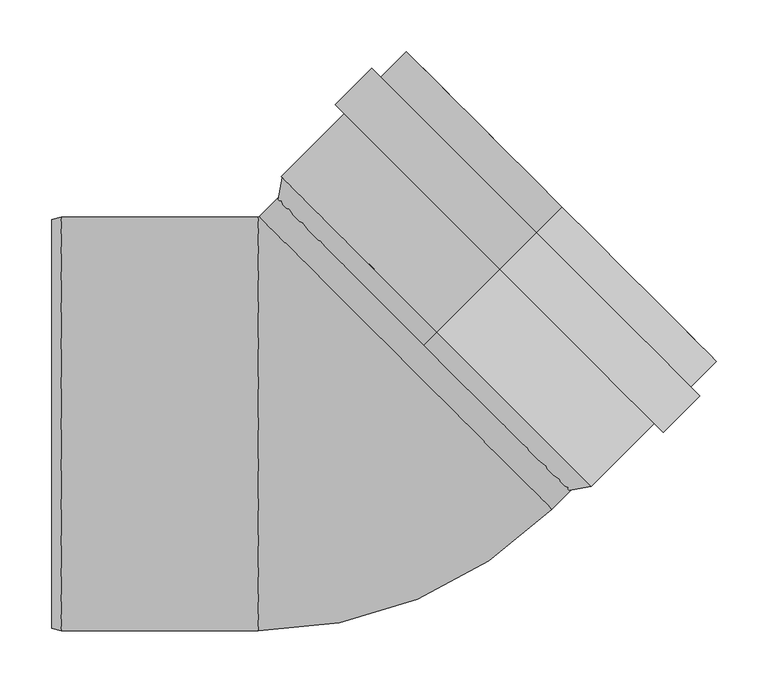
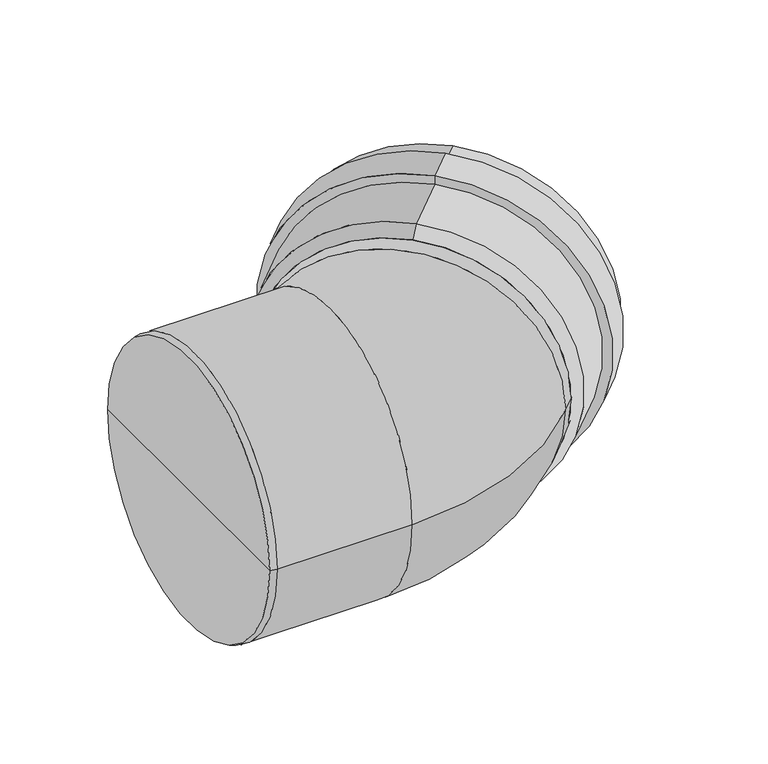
"""IFC4 building model written with IfcOpenShell, lengths in millimetres: pipe fitting geometry, OSMA_KG2000_PPKGB : Koleno 45°."""

from ifc_helpers import new_model, si_unit, point, frame, origin, place, context, project, spatial, polyline, circle_curve, ellipse_curve, trimmed, source, transform, mapped, element, save
from ifc_brep_helpers import plane_surface, cylinder_surface, revolved_surface, advanced_brep


def pipe_fitting_3167e5d4(model_context):
    return source(origin(), model_context, "Body", "AdvancedBrep", [
        advanced_brep(
        [(89.0954544, 89.0954544, 200.0), (89.0954544, 89.0954544, -200.0), (210.010714, 210.010714, -200.0), (210.010714, 210.010714, 200.0), (149.9066376, 149.9066376, 212.3), (149.9066376, 149.9066376, -212.3), (89.0954544, 89.0954544, -212.3), (89.0954544, 89.0954544, 212.3), (149.9066376, 149.9066376, 225.0), (149.9066376, 149.9066376, -225.0), (185.2619767, 185.2619767, 225.0), (185.2619767, 185.2619767, -225.0), (185.2619767, 185.2619767, 212.3), (185.2619767, 185.2619767, -212.3), (210.010714, 210.010714, 212.3), (210.010714, 210.010714, -212.3), (76.3675324, 76.3675324, 187.7), (76.3675324, 76.3675324, -187.7), (76.3675324, 76.3675324, 200.0), (76.3675324, 76.3675324, -200.0)],
        [
            (0, 1, circle_curve(frame((89.0954544, 89.0954544, 0.0), z_axis=(-0.7071067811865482, -0.7071067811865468, 0.0), x_axis=(0.0, 0.0, -1.0)), 200.0)),
            (1, 2),
            (2, 3, circle_curve(frame((210.010714, 210.010714, 0.0), z_axis=(0.7071067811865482, 0.7071067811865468, 0.0), x_axis=(0.0, 0.0, -1.0)), 200.0)),
            (3, 0),
            (1, 0, circle_curve(frame((89.0954544, 89.0954544, 0.0), z_axis=(-0.7071067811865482, -0.7071067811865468, 0.0), x_axis=(0.0, 0.0, -1.0)), 200.0)),
            (3, 2, circle_curve(frame((210.010714, 210.010714, 0.0), z_axis=(0.7071067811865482, 0.7071067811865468, 0.0), x_axis=(0.0, 0.0, -1.0)), 200.0)),
            (4, 5, circle_curve(frame((149.9066376, 149.9066376, 0.0), z_axis=(-0.7071067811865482, -0.7071067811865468, 0.0), x_axis=(0.0, 0.0, -1.0)), 212.3)),
            (5, 6),
            (6, 7, circle_curve(frame((89.0954544, 89.0954544, 0.0), z_axis=(0.7071067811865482, 0.7071067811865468, 0.0), x_axis=(0.0, 0.0, -1.0)), 212.3)),
            (7, 4),
            (5, 4, circle_curve(frame((149.9066376, 149.9066376, 0.0), z_axis=(-0.7071067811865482, -0.7071067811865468, 0.0), x_axis=(0.0, 0.0, -1.0)), 212.3)),
            (7, 6, circle_curve(frame((89.0954544, 89.0954544, 0.0), z_axis=(0.7071067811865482, 0.7071067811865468, 0.0), x_axis=(0.0, 0.0, -1.0)), 212.3)),
            (8, 9, circle_curve(frame((149.9066376, 149.9066376, 0.0), z_axis=(-0.7071067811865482, -0.7071067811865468, 0.0), x_axis=(0.0, 0.0, -1.0)), 225.0)),
            (9, 5),
            (4, 8),
            (9, 8, circle_curve(frame((149.9066376, 149.9066376, 0.0), z_axis=(-0.7071067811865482, -0.7071067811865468, 0.0), x_axis=(0.0, 0.0, -1.0)), 225.0)),
            (10, 11, circle_curve(frame((185.2619767, 185.2619767, 0.0), z_axis=(-0.7071067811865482, -0.7071067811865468, 0.0), x_axis=(0.0, 0.0, -1.0)), 225.0)),
            (11, 9),
            (8, 10),
            (11, 10, circle_curve(frame((185.2619767, 185.2619767, 0.0), z_axis=(-0.7071067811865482, -0.7071067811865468, 0.0), x_axis=(0.0, 0.0, -1.0)), 225.0)),
            (12, 13, circle_curve(frame((185.2619767, 185.2619767, 0.0), z_axis=(-0.7071067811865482, -0.7071067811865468, 0.0), x_axis=(0.0, 0.0, -1.0)), 212.3)),
            (13, 11),
            (10, 12),
            (13, 12, circle_curve(frame((185.2619767, 185.2619767, 0.0), z_axis=(-0.7071067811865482, -0.7071067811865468, 0.0), x_axis=(0.0, 0.0, -1.0)), 212.3)),
            (14, 15, circle_curve(frame((210.010714, 210.010714, 0.0), z_axis=(-0.7071067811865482, -0.7071067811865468, 0.0), x_axis=(0.0, 0.0, -1.0)), 212.3)),
            (15, 13),
            (12, 14),
            (15, 14, circle_curve(frame((210.010714, 210.010714, 0.0), z_axis=(-0.7071067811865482, -0.7071067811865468, 0.0), x_axis=(0.0, 0.0, -1.0)), 212.3)),
            (2, 15),
            (14, 3),
            (16, 17, circle_curve(frame((76.3675324, 76.3675324, 0.0), z_axis=(-0.7071067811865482, -0.7071067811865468, 0.0), x_axis=(0.0, 0.0, -1.0)), 187.7)),
            (17, 1),
            (0, 16),
            (17, 16, circle_curve(frame((76.3675324, 76.3675324, 0.0), z_axis=(-0.7071067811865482, -0.7071067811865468, 0.0), x_axis=(0.0, 0.0, -1.0)), 187.7)),
            (18, 19, circle_curve(frame((76.3675324, 76.3675324, 0.0), z_axis=(-0.7071067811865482, -0.7071067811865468, 0.0), x_axis=(0.0, 0.0, -1.0)), 200.0)),
            (19, 17),
            (16, 18),
            (19, 18, circle_curve(frame((76.3675324, 76.3675324, 0.0), z_axis=(-0.7071067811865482, -0.7071067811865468, 0.0), x_axis=(0.0, 0.0, -1.0)), 200.0)),
            (6, 19),
            (18, 7),
        ],
        [
            revolved_surface(polyline([(210.0107139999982, 210.01071400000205, -200.0), (89.09545439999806, 89.09545440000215, -200.0)]), (2097.614037, 2097.614037, 0.0), (0.7071067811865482, 0.7071067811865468, 0.0)),
            cylinder_surface(frame((2097.614037, 2097.614037, 0.0), z_axis=(0.7071067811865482, 0.7071067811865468, 0.0), x_axis=(0.0, 0.0, -1.0)), 212.3),
            plane_surface(frame((149.9066376, 149.9066376, 0.0), z_axis=(-0.7071067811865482, -0.7071067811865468, 0.0), x_axis=(0.0, 0.0, -1.0))),
            cylinder_surface(frame((2097.614037, 2097.614037, 0.0), z_axis=(0.7071067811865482, 0.7071067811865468, 0.0), x_axis=(0.0, 0.0, -1.0)), 225.0),
            plane_surface(frame((185.2619767, 185.2619767, 0.0), z_axis=(0.7071067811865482, 0.7071067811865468, 0.0), x_axis=(0.0, 0.0, -1.0))),
            plane_surface(frame((210.010714, 210.010714, 0.0), z_axis=(0.7071067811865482, 0.7071067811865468, 0.0), x_axis=(0.0, 0.0, -1.0))),
            revolved_surface(polyline([(89.0954544, 89.0954544, -200.0), (76.3675324, 76.3675324, -187.7)]), (2097.614037, 2097.614037, 0.0), (0.7071067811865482, 0.7071067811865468, 0.0)),
            plane_surface(frame((76.3675324, 76.3675324, 0.0), z_axis=(-0.7071067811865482, -0.7071067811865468, 0.0), x_axis=(0.0, 0.0, -1.0))),
            revolved_surface(polyline([(76.3675324, 76.3675324, -200.0), (89.0954544, 89.0954544, -212.3)]), (2097.614037, 2097.614037, 0.0), (0.7071067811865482, 0.7071067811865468, 0.0)),
        ],
        [
            (0, [[1, 2, 3, 4]]),
            (0, [[5, -4, 6, -2]]),
            (1, [[7, 8, 9, 10]]),
            (1, [[11, -10, 12, -8]]),
            (2, [[13, 14, -7, 15]]),
            (2, [[16, -15, -11, -14]]),
            (3, [[17, 18, -13, 19]]),
            (3, [[20, -19, -16, -18]]),
            (4, [[21, 22, -17, 23]]),
            (4, [[24, -23, -20, -22]]),
            (1, [[25, 26, -21, 27]]),
            (1, [[28, -27, -24, -26]]),
            (5, [[-3, 29, -25, 30]]),
            (5, [[-6, -30, -28, -29]]),
            (6, [[31, 32, -1, 33]]),
            (6, [[34, -33, -5, -32]]),
            (7, [[35, 36, -31, 37]]),
            (7, [[38, -37, -34, -36]]),
            (8, [[-9, 39, -35, 40]]),
            (8, [[-12, -40, -38, -39]]),
        ],
    ),
        advanced_brep(
        [(-82.4033726, 200.4393398, 0.0), (-83.4640328, 200.0, 0.0), (-83.4640328, -200.0, 0.0), (200.4393398, -82.4033726, 0.0), (59.0179836, 59.0179836, 200.0), (59.0179836, 59.0179836, -200.0), (-283.0, 0.0, 0.0), (-283.0, 197.5884572, 0.0), (-283.0, -197.5884572, 0.0), (-274.0, 200.0, 0.0), (-274.0, -200.0, 0.0), (226.27417, -56.5685425, 0.0), (-56.5685425, 226.27417, 0.0)],
        [
            (0, 1, circle_curve(frame((-83.4640328, 201.5, 0.0), z_axis=(0.0, 0.0, -1.0), x_axis=(0.0, -1.0, 0.0)), 1.5)),
            (1, 2, circle_curve(frame((-83.4640328, 0.0, 0.0), z_axis=(1.0, 0.0, 0.0), x_axis=(0.0, 1.0, 0.0)), 200.0)),
            (2, 3, circle_curve(frame((-83.4640328, 201.5, 0.0), z_axis=(0.0, 0.0, 1.0), x_axis=(0.0, -1.0, 0.0)), 401.5)),
            (3, 4, circle_curve(frame((59.0179836, 59.0179836, 0.0), z_axis=(-0.7071067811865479, -0.7071067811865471, 0.0), x_axis=(-0.7071067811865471, 0.7071067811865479, 0.0)), 200.0)),
            (4, 0, circle_curve(frame((59.0179836, 59.0179836, 0.0), z_axis=(-0.7071067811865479, -0.7071067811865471, 0.0), x_axis=(-0.7071067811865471, 0.7071067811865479, 0.0)), 200.0)),
            (0, 5, circle_curve(frame((59.0179836, 59.0179836, 0.0), z_axis=(-0.7071067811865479, -0.7071067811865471, 0.0), x_axis=(-0.7071067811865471, 0.7071067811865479, 0.0)), 200.0)),
            (5, 3, circle_curve(frame((59.0179836, 59.0179836, 0.0), z_axis=(-0.707106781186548, -0.707106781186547, 0.0), x_axis=(-0.707106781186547, 0.707106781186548, 0.0)), 200.0)),
            (2, 1, circle_curve(frame((-83.4640328, 0.0, 0.0), z_axis=(1.0, 0.0, 0.0), x_axis=(0.0, 1.0, 0.0)), 200.0)),
            (6, 7),
            (7, 8, circle_curve(frame((-283.0, 0.0, 0.0), z_axis=(-1.0, 0.0, 0.0), x_axis=(0.0, 1.0, 0.0)), 197.5884572)),
            (8, 6),
            (8, 7, circle_curve(frame((-283.0, 0.0, 0.0), z_axis=(-1.0, 0.0, 0.0), x_axis=(0.0, 1.0, 0.0)), 197.5884572)),
            (7, 9),
            (9, 10, circle_curve(frame((-274.0, 0.0, 0.0), z_axis=(-1.0, 0.0, 0.0), x_axis=(0.0, 1.0, 0.0)), 200.0)),
            (10, 8),
            (10, 9, circle_curve(frame((-274.0, 0.0, 0.0), z_axis=(-1.0, 0.0, 0.0), x_axis=(0.0, 1.0, 0.0)), 200.0)),
            (9, 1),
            (2, 10),
            (11, 12, circle_curve(frame((84.8528137, 84.8528137, 0.0), z_axis=(0.7071067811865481, 0.707106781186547, 0.0), x_axis=(-0.707106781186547, 0.7071067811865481, 0.0)), 200.0)),
            (12, 11, circle_curve(frame((84.8528137, 84.8528137, 0.0), z_axis=(0.7071067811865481, 0.707106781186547, 0.0), x_axis=(-0.707106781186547, 0.7071067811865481, 0.0)), 200.0)),
            (12, 0),
            (3, 11),
        ],
        [
            revolved_surface(trimmed(ellipse_curve(frame((-83.4640328, 0.0, 0.0), z_axis=(-1.0, 0.0, 0.0), x_axis=(0.0, 1.0, 0.0)), 200.0, 200.0), [point((-83.4640328, -200.0, 0.0))], [point((-83.4640328, 200.0, 0.0))], True, "CARTESIAN"), (-83.4640328, 201.5, 0.0), (0.0, 0.0, 1.0)),
            revolved_surface(trimmed(ellipse_curve(frame((-83.4640328, 0.0, 0.0), z_axis=(-1.0, 0.0, 0.0), x_axis=(0.0, 1.0, 0.0)), 200.0, 200.0), [point((-83.4640328, 200.0, 0.0))], [point((-83.4640328, -200.0, 0.0))], True, "CARTESIAN"), (-83.4640328, 201.5, 0.0), (0.0, 0.0, 1.0)),
            plane_surface(frame((-283.0, 0.0, 0.0), z_axis=(-1.0, 0.0, 0.0), x_axis=(0.0, 1.0, 0.0))),
            revolved_surface(polyline([(-274.0, 200.0, 0.0), (-283.0, 197.5884572, 0.0)]), (331.0587718, 0.0, 0.0), (-1.0, 0.0, 0.0)),
            cylinder_surface(frame((331.0587718, 0.0, 0.0), z_axis=(-1.0, 0.0, 0.0), x_axis=(0.0, 1.0, 0.0)), 200.0),
            plane_surface(frame((84.8528137, 84.8528137, 0.0), z_axis=(0.7071067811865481, 0.707106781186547, 0.0), x_axis=(0.0, 0.0, 1.0))),
            cylinder_surface(frame((59.0179836, 59.0179836, 0.0), z_axis=(-0.7071067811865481, -0.707106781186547, 0.0), x_axis=(-0.707106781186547, 0.7071067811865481, 0.0)), 200.0),
        ],
        [
            (0, [[1, 2, 3, 4, 5]]),
            (1, [[-1, 6, 7, -3, 8]]),
            (2, [[9, 10, 11]]),
            (2, [[-9, -11, 12]]),
            (3, [[-10, 13, 14, 15]]),
            (3, [[-12, -15, 16, -13]]),
            (4, [[-14, 17, -8, 18]]),
            (4, [[-16, -18, -2, -17]]),
            (5, [[19, 20]]),
            (6, [[-20, 21, -5, -4, 22]]),
            (6, [[-19, -22, -7, -6, -21]]),
        ],
    ),
    ])


if __name__ == "__main__":
    model = new_model("IFC4")
    model_context = context("Model", 3, world=origin())
    ifc_project = project(units=[si_unit("LENGTHUNIT", "METRE", prefix="MILLI")], contexts=[model_context])
    site = spatial("IfcSite", under=ifc_project)
    building = spatial("IfcBuilding", under=site)
    placement = place(None, origin())
    pipe_fitting_shape = pipe_fitting_3167e5d4(model_context)
    element("IfcPipeFitting", 1, ObjectType="OSMA_KG2000_PPKGB : Koleno 45°", at=placement, inside=building, context=model_context, shape_type="MappedRepresentation", body=[
        mapped(pipe_fitting_shape, transform((0.0, 0.0, 0.0), x_axis=(1.0, 0.0, 0.0), y_axis=(0.0, 1.0, 0.0), z_axis=(0.0, 0.0, 1.0))),
    ])
    save(model, "model.ifc")
